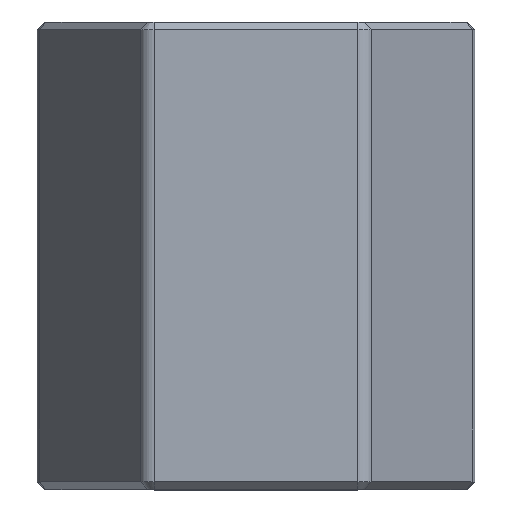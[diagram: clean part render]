
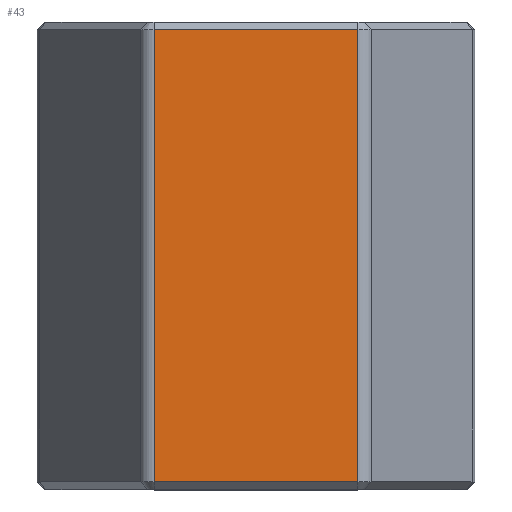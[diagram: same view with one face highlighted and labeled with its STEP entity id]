
A CAD part, top view. The second image highlights one B-rep face of the part: STEP entity #43.
In plain terms, the highlighted planar face has unit normal (0, 0, 1).
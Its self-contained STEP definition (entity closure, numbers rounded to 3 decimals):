
#43=ADVANCED_FACE('',(#123),#122,.T.);
#122=PLANE('',#634);
#123=FACE_OUTER_BOUND('',#635,.T.);
#631=CARTESIAN_POINT('',(-15.935,-4.9,25.));
#632=DIRECTION('',(0.,0.,1.));
#633=DIRECTION('',(1.,0.,0.));
#634=AXIS2_PLACEMENT_3D('',#631,#632,#633);
#635=EDGE_LOOP('',(#940,#941,#942,#943));
#940=ORIENTED_EDGE('',*,*,#1164,.T.);
#941=ORIENTED_EDGE('',*,*,#1165,.T.);
#942=ORIENTED_EDGE('',*,*,#1166,.T.);
#943=ORIENTED_EDGE('',*,*,#1167,.T.);
#1164=EDGE_CURVE('',#1348,#1349,#1350,.T.);
#1165=EDGE_CURVE('',#1349,#1356,#1357,.T.);
#1166=EDGE_CURVE('',#1356,#1363,#1364,.T.);
#1167=EDGE_CURVE('',#1363,#1348,#1370,.T.);
#1348=VERTEX_POINT('',#2050);
#1349=VERTEX_POINT('',#2051);
#1350=LINE('',#2052,#2053);
#1356=VERTEX_POINT('',#2055);
#1357=LINE('',#2056,#2057);
#1363=VERTEX_POINT('',#2059);
#1364=LINE('',#2060,#2061);
#1370=LINE('',#2063,#2064);
#2050=CARTESIAN_POINT('',(-13.279,60.,25.));
#2051=CARTESIAN_POINT('',(-13.279,1.,25.));
#2052=CARTESIAN_POINT('',(-13.279,60.,25.));
#2053=VECTOR('',#2054,59.);
#2054=DIRECTION('',(0.,-1.,0.));
#2055=CARTESIAN_POINT('',(13.279,1.,25.));
#2056=CARTESIAN_POINT('',(-13.279,1.,25.));
#2057=VECTOR('',#2058,26.558);
#2058=DIRECTION('',(1.,0.,0.));
#2059=CARTESIAN_POINT('',(13.279,60.,25.));
#2060=CARTESIAN_POINT('',(13.279,1.,25.));
#2061=VECTOR('',#2062,59.);
#2062=DIRECTION('',(0.,1.,0.));
#2063=CARTESIAN_POINT('',(13.279,60.,25.));
#2064=VECTOR('',#2065,26.558);
#2065=DIRECTION('',(-1.,0.,0.));
